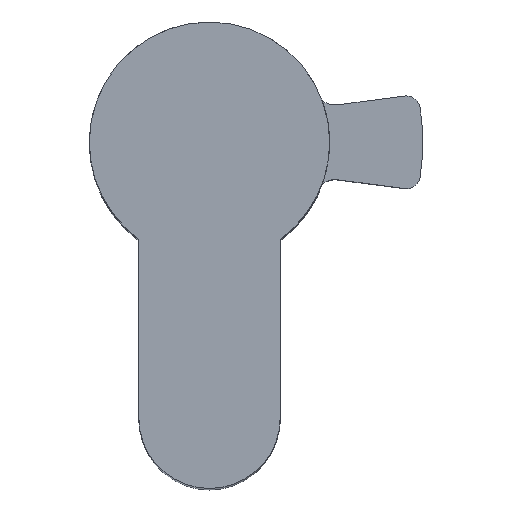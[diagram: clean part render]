
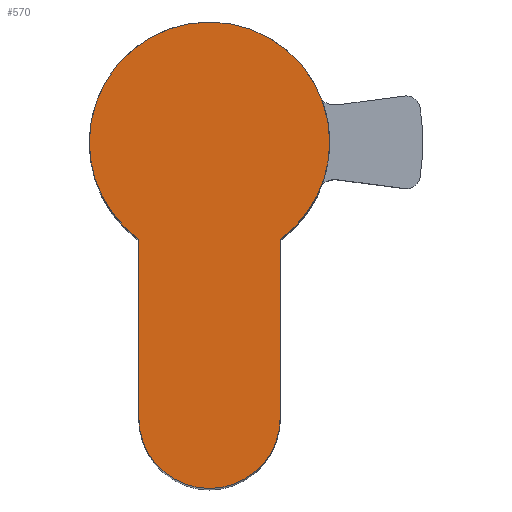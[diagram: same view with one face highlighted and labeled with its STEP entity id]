
A CAD part, top view. The second image highlights one B-rep face of the part: STEP entity #570.
In plain terms, the highlighted planar face has unit normal (0, 0, 1).
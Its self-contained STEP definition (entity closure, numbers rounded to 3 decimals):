
#23 = DIRECTION ( 'NONE',  ( 1., 0., 0. ) ) ;
#42 = DIRECTION ( 'NONE',  ( 0., 0., 1. ) ) ;
#106 = ORIENTED_EDGE ( 'NONE', *, *, #1239, .T. ) ;
#129 = AXIS2_PLACEMENT_3D ( 'NONE', #1155, #779, #1262 ) ;
#222 = VERTEX_POINT ( 'NONE', #994 ) ;
#225 = EDGE_CURVE ( 'NONE', #1499, #679, #1000, .T. ) ;
#311 = DIRECTION ( 'NONE',  ( 1., 0., 0. ) ) ;
#372 = EDGE_CURVE ( 'NONE', #1446, #870, #600, .T. ) ;
#373 = VERTEX_POINT ( 'NONE', #1027 ) ;
#399 = PLANE ( 'NONE',  #577 ) ;
#415 = CIRCLE ( 'NONE', #803, 8.5 ) ;
#418 = CARTESIAN_POINT ( 'NONE',  ( 8.5, 0., 10. ) ) ;
#420 = DIRECTION ( 'NONE',  ( 1., 0., 0. ) ) ;
#431 = CIRCLE ( 'NONE', #1324, 8.5 ) ;
#432 = CARTESIAN_POINT ( 'NONE',  ( 0., 0., 10. ) ) ;
#447 = EDGE_CURVE ( 'NONE', #222, #1446, #431, .T. ) ;
#454 = DIRECTION ( 'NONE',  ( 0., 1., 0. ) ) ;
#488 = CARTESIAN_POINT ( 'NONE',  ( 0., 0., 10. ) ) ;
#517 = DIRECTION ( 'NONE',  ( 1., 0., 0. ) ) ;
#536 = AXIS2_PLACEMENT_3D ( 'NONE', #548, #1260, #420 ) ;
#548 = CARTESIAN_POINT ( 'NONE',  ( 0., -19.5, 10. ) ) ;
#570 = ADVANCED_FACE ( 'NONE', ( #1005 ), #399, .T. ) ;
#577 = AXIS2_PLACEMENT_3D ( 'NONE', #1488, #42, #517 ) ;
#600 = CIRCLE ( 'NONE', #129, 8.5 ) ;
#679 = VERTEX_POINT ( 'NONE', #1306 ) ;
#779 = DIRECTION ( 'NONE',  ( 0., 0., 1. ) ) ;
#803 = AXIS2_PLACEMENT_3D ( 'NONE', #488, #1337, #23 ) ;
#870 = VERTEX_POINT ( 'NONE', #973 ) ;
#883 = CARTESIAN_POINT ( 'NONE',  ( -5., -6.874, 10. ) ) ;
#894 = LINE ( 'NONE', #1367, #1414 ) ;
#903 = ORIENTED_EDGE ( 'NONE', *, *, #447, .T. ) ;
#939 = CARTESIAN_POINT ( 'NONE',  ( -5., -6.874, 10. ) ) ;
#951 = VECTOR ( 'NONE', #1132, 1000. ) ;
#965 = EDGE_CURVE ( 'NONE', #679, #373, #1209, .T. ) ;
#973 = CARTESIAN_POINT ( 'NONE',  ( -8.5, 0., 10. ) ) ;
#989 = ORIENTED_EDGE ( 'NONE', *, *, #225, .T. ) ;
#994 = CARTESIAN_POINT ( 'NONE',  ( 5., -6.874, 10. ) ) ;
#1000 = LINE ( 'NONE', #883, #951 ) ;
#1002 = ORIENTED_EDGE ( 'NONE', *, *, #1451, .T. ) ;
#1005 = FACE_OUTER_BOUND ( 'NONE', #1193, .T. ) ;
#1027 = CARTESIAN_POINT ( 'NONE',  ( 5., -19.5, 10. ) ) ;
#1113 = ORIENTED_EDGE ( 'NONE', *, *, #372, .T. ) ;
#1132 = DIRECTION ( 'NONE',  ( 0., -1., 0. ) ) ;
#1155 = CARTESIAN_POINT ( 'NONE',  ( 0., 0., 10. ) ) ;
#1177 = ORIENTED_EDGE ( 'NONE', *, *, #965, .T. ) ;
#1193 = EDGE_LOOP ( 'NONE', ( #903, #1113, #106, #989, #1177, #1002 ) ) ;
#1209 = CIRCLE ( 'NONE', #536, 5. ) ;
#1239 = EDGE_CURVE ( 'NONE', #870, #1499, #415, .T. ) ;
#1260 = DIRECTION ( 'NONE',  ( 0., 0., 1. ) ) ;
#1262 = DIRECTION ( 'NONE',  ( 1., 0., 0. ) ) ;
#1306 = CARTESIAN_POINT ( 'NONE',  ( -5., -19.5, 10. ) ) ;
#1324 = AXIS2_PLACEMENT_3D ( 'NONE', #432, #1381, #311 ) ;
#1337 = DIRECTION ( 'NONE',  ( 0., 0., 1. ) ) ;
#1367 = CARTESIAN_POINT ( 'NONE',  ( 5., -19.5, 10. ) ) ;
#1381 = DIRECTION ( 'NONE',  ( 0., 0., 1. ) ) ;
#1414 = VECTOR ( 'NONE', #454, 1000. ) ;
#1446 = VERTEX_POINT ( 'NONE', #418 ) ;
#1451 = EDGE_CURVE ( 'NONE', #373, #222, #894, .T. ) ;
#1488 = CARTESIAN_POINT ( 'NONE',  ( 0., 0., 10. ) ) ;
#1499 = VERTEX_POINT ( 'NONE', #939 ) ;
